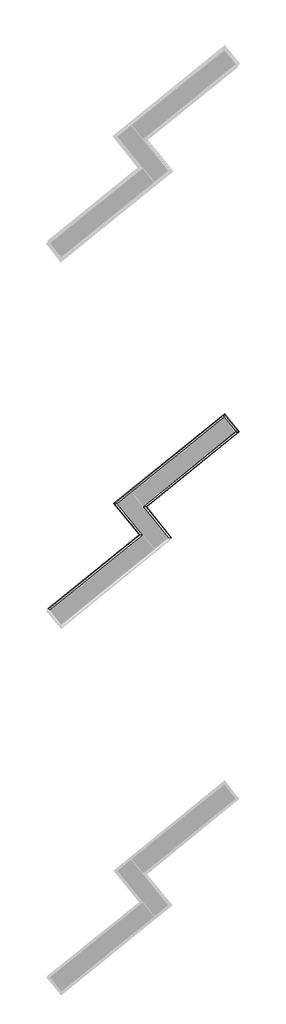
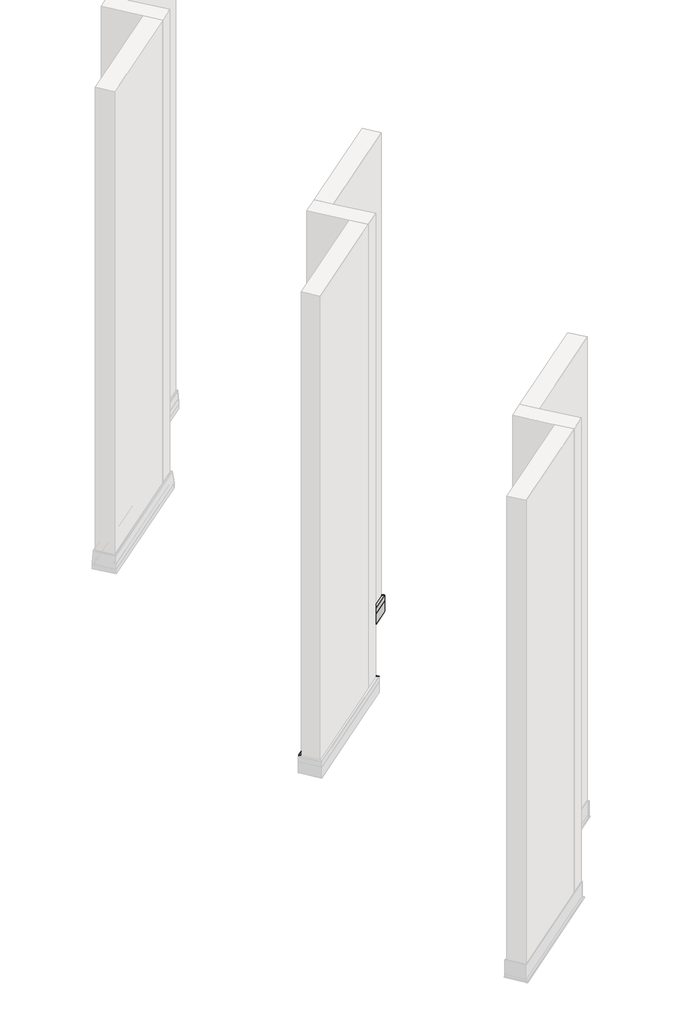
# One storey, part 13 of 21: 5 proxies.
"""IFC4 building model written with IfcOpenShell, lengths in millimetres."""

from ifc_helpers import new_model, si_unit, frame, origin, place, context, project, spatial, circle_curve, ellipse_curve, element, save
from ifc_brep_helpers import plane_surface, cylinder_surface, advanced_brep

model = new_model("IFC4")

# Units and contexts
model_context = context("Model", 3, world=origin())
ifc_project = project(units=[si_unit("LENGTHUNIT", "METRE", prefix="MILLI")], contexts=[model_context])

# Site, building, storey
site = spatial("IfcSite", under=ifc_project)
building = spatial("IfcBuilding", under=site)
storey = spatial("IfcBuildingStorey", under=building, Name="Izofleks 2D View", Elevation=0.0)

# Proxies
placement = place(None, origin())
element("IfcBuildingElementProxy", 1, Name="Wall Sweeps", at=placement, inside=storey, context=model_context, shape_type="AdvancedBrep", body=[
    advanced_brep(
    [(10090.7557354, -7173.9399413, 100.0761589), (10090.7561443, -7173.9399843, 95.8999603), (10088.0380278, -7173.6542987, 95.8999603), (10088.0380278, -7173.6542987, 25.0000729), (10105.3375301, -7175.4725497, 25.0000729), (10105.3375301, -7175.4725497, 4.3000282), (10101.118593, -7175.0291215, 4.3000282), (10101.118593, -7175.0291215, 0.0), (10102.9468876, -7175.221283, 0.0), (10102.9468876, -7175.221283, 2.9999622), (10107.1662336, -7175.6647541, 2.9999622), (10107.1705263, -7175.6652053, 66.9999802), (10105.3504083, -7175.4739032, 66.9998348), (10105.3499995, -7175.4738602, 69.0768883), (10107.216111, -7175.6699965, 69.0770336), (10107.2120208, -7175.6695666, 98.0903335), (10104.3237642, -7175.3659986, 100.0761589), (10594.6845778, -6763.380012, 100.0761589), (10602.1816209, -6757.3090262, 100.0761589), (10603.7775332, -6756.0166819, 98.0903335), (10603.7797932, -6756.0148518, 69.0770336), (10602.7486693, -6756.8498394, 69.0768883), (10602.7488952, -6756.8496565, 66.9998348), (10603.7546053, -6756.0352486, 66.9999802), (10603.7522333, -6756.0371693, 2.9999622), (10601.4208248, -6757.9251067, 2.9999622), (10601.4208248, -6757.9251067, 0.0), (10600.4105967, -6758.7431733, 0.0), (10600.4105967, -6758.7431733, 4.3000282), (10602.7417794, -6756.8554188, 4.3000282), (10602.7417794, -6756.8554188, 25.0000729), (10593.1829027, -6764.5960445, 25.0000729), (10593.1829027, -6764.5960445, 95.8999603), (10594.6848037, -6763.379829, 95.8999603), (10595.9006104, -6764.8816871, 100.0761589), (10609.4686391, -6766.3077444, 100.0761589), (10612.3568958, -6766.6113124, 98.0903335), (10612.360986, -6766.6117423, 69.0770336), (10610.4948744, -6766.4156061, 69.0768883), (10610.4952832, -6766.415649, 66.9998348), (10612.3154013, -6766.6069511, 66.9999802), (10612.3111085, -6766.6065, 2.9999622), (10608.0917626, -6766.1630288, 2.9999622), (10608.0917626, -6766.1630288, 0.0), (10606.2634679, -6765.9708673, 0.0), (10606.2634679, -6765.9708673, 4.3000282), (10610.482405, -6766.4142955, 4.3000282), (10610.482405, -6766.4142955, 25.0000729), (10595.9010192, -6764.8817301, 95.8999603)],
    [
        (0, 1),
        (1, 2),
        (2, 3),
        (3, 4),
        (4, 5),
        (5, 6),
        (6, 7),
        (7, 8),
        (8, 9),
        (9, 10),
        (10, 11),
        (11, 12),
        (12, 13),
        (13, 14),
        (14, 15),
        (15, 16, ellipse_curve(frame((10104.3991518, -7175.3739221, 98.0768773), z_axis=(-0.10452846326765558, -0.9945218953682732, 0.0), x_axis=(0.9945218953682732, -0.10452846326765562, 0.0)), 2.8284271, 2.0)),
        (16, 0),
        (17, 18),
        (18, 19, circle_curve(frame((10602.2232764, -6757.2752942, 98.0768773), z_axis=(-0.6293203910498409, 0.777145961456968, 0.0), x_axis=(0.7771459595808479, 0.6293203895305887, 6.948547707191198e-05)), 2.0)),
        (19, 20),
        (20, 21),
        (21, 22),
        (22, 23),
        (23, 24),
        (24, 25),
        (25, 26),
        (26, 27),
        (27, 28),
        (28, 29),
        (29, 30),
        (30, 31),
        (31, 32),
        (32, 33),
        (33, 17),
        (17, 34),
        (34, 35),
        (35, 18),
        (35, 36, ellipse_curve(frame((10609.5440267, -6766.315668, 98.0768773), z_axis=(0.1045284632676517, 0.9945218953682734, 0.0), x_axis=(-0.9945218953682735, 0.1045284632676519, 0.0)), 2.8284271, 2.0)),
        (36, 19),
        (36, 37),
        (37, 20),
        (37, 38),
        (38, 21),
        (38, 39),
        (39, 22),
        (39, 40),
        (40, 23),
        (40, 41),
        (41, 24),
        (41, 42),
        (42, 25),
        (42, 43),
        (43, 26),
        (43, 44),
        (44, 27),
        (44, 45),
        (45, 28),
        (45, 46),
        (46, 29),
        (46, 47),
        (47, 30),
        (47, 31),
        (32, 48),
        (48, 33),
        (48, 34),
        (34, 0),
        (16, 35),
        (15, 36),
        (14, 37),
        (13, 38),
        (12, 39),
        (11, 40),
        (10, 41),
        (9, 42),
        (8, 43),
        (7, 44),
        (6, 45),
        (5, 46),
        (4, 47),
        (3, 31),
        (2, 32),
        (1, 48),
    ],
    [
        plane_surface(frame((10088.0380278, -7173.6542987, -304.8), z_axis=(-0.10452846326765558, -0.9945218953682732, 0.0), x_axis=(0.9945218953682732, -0.10452846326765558, 0.0))),
        plane_surface(frame((10593.1829027, -6764.5960445, 0.0), z_axis=(-0.6293203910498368, 0.7771459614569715, 0.0), x_axis=(0.7771459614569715, 0.6293203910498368, 0.0))),
        plane_surface(frame((10594.6845778, -6763.380012, 100.0761589), z_axis=(0.0, 0.0, 1.0), x_axis=(0.6293203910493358, -0.7771459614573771, 0.0))),
        cylinder_surface(frame((10602.2232764, -6757.2752942, 98.0768773), z_axis=(-0.629320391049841, 0.7771459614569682, 0.0), x_axis=(0.7771459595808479, 0.6293203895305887, 6.948547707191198e-05)), 2.0),
        plane_surface(frame((10603.7775332, -6756.0166819, 98.0903335), z_axis=(0.7771459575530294, 0.6293203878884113, 0.00010023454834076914), x_axis=(0.6293203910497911, -0.7771459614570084, 0.0))),
        plane_surface(frame((10603.7797932, -6756.0148518, 69.0770336), z_axis=(8.512936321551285e-05, 6.893639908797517e-05, -0.9999999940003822), x_axis=(0.6293203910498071, -0.7771459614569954, 0.0))),
        plane_surface(frame((10602.7486693, -6756.8498394, 69.0768883), z_axis=(0.7771459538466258, 0.6293203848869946, 0.00013994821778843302), x_axis=(0.6293203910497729, -0.7771459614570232, 0.0))),
        plane_surface(frame((10602.7488952, -6756.8496565, 66.9998348), z_axis=(-8.728054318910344e-05, -7.067839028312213e-05, 0.9999999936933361), x_axis=(0.6293203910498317, -0.7771459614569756, 0.0))),
        plane_surface(frame((10603.7546053, -6756.0352486, 66.9999802), z_axis=(0.7771459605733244, 0.6293203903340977, -4.768966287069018e-05), x_axis=(0.6293203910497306, -0.7771459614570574, 0.0))),
        plane_surface(frame((10603.7522333, -6756.0371693, 2.9999622), z_axis=(0.0, 0.0, -1.0), x_axis=(0.6293203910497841, -0.7771459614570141, 0.0))),
        plane_surface(frame((10601.4208248, -6757.9251067, 2.9999622), z_axis=(0.7771459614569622, 0.6293203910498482, 0.0), x_axis=(0.6293203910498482, -0.7771459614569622, 0.0))),
        plane_surface(frame((10601.4208248, -6757.9251067, 0.0), z_axis=(0.0, 0.0, -1.0), x_axis=(0.6293203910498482, -0.7771459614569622, 0.0))),
        plane_surface(frame((10600.4105967, -6758.7431733, 0.0), z_axis=(-0.7771459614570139, -0.6293203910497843, 0.0), x_axis=(0.6293203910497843, -0.7771459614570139, 0.0))),
        plane_surface(frame((10600.4105967, -6758.7431733, 4.3000282), z_axis=(0.0, 0.0, 1.0), x_axis=(0.6293203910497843, -0.7771459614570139, 0.0))),
        plane_surface(frame((10602.7417794, -6756.8554188, 4.3000282), z_axis=(-0.7771459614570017, -0.6293203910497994, 0.0), x_axis=(0.6293203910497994, -0.7771459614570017, 0.0))),
        plane_surface(frame((10602.7417794, -6756.8554188, 25.0000729), z_axis=(0.0, 0.0, -1.0), x_axis=(0.6293203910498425, -0.7771459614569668, 0.0))),
        plane_surface(frame((10593.1829027, -6764.5960445, 95.8999603), z_axis=(0.0, 0.0, 1.0), x_axis=(0.6293203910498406, -0.7771459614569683, 0.0))),
        plane_surface(frame((10594.6848037, -6763.379829, 95.8999603), z_axis=(-0.777145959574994, -0.6293203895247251, -6.960395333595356e-05), x_axis=(0.6293203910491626, -0.7771459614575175, 0.0))),
        plane_surface(frame((10595.9006104, -6764.8816871, 100.0761589), z_axis=(0.0, 0.0, 1.0), x_axis=(-0.7771459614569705, -0.6293203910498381, 0.0))),
        cylinder_surface(frame((10600.503653, -6773.6364183, 98.0768773), z_axis=(0.7771459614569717, 0.6293203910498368, 0.0), x_axis=(0.6293203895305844, -0.7771459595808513, 6.9485477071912e-05)), 2.0),
        plane_surface(frame((10612.3568958, -6766.6113124, 98.0903335), z_axis=(0.6293203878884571, -0.7771459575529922, 0.00010023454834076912), x_axis=(-0.7771459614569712, -0.629320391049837, 0.0))),
        plane_surface(frame((10612.360986, -6766.6117423, 69.0770336), z_axis=(6.893639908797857e-05, -8.512936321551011e-05, -0.9999999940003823), x_axis=(-0.7771459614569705, -0.6293203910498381, 0.0))),
        plane_surface(frame((10610.4948744, -6766.4156061, 69.0768883), z_axis=(0.6293203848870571, -0.7771459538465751, 0.000139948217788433), x_axis=(-0.7771459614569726, -0.6293203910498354, 0.0))),
        plane_surface(frame((10610.4952832, -6766.415649, 66.9998348), z_axis=(-7.067839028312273e-05, 8.728054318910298e-05, 0.9999999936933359), x_axis=(-0.7771459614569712, -0.629320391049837, 0.0))),
        plane_surface(frame((10612.3154013, -6766.6069511, 66.9999802), z_axis=(0.6293203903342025, -0.7771459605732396, -4.7689662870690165e-05), x_axis=(-0.7771459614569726, -0.6293203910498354, 0.0))),
        plane_surface(frame((10612.3111085, -6766.6065, 2.9999622), z_axis=(0.0, 0.0, -1.0), x_axis=(-0.7771459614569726, -0.6293203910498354, 0.0))),
        plane_surface(frame((10608.0917626, -6766.1630288, 2.9999622), z_axis=(0.629320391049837, -0.7771459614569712, 0.0), x_axis=(-0.7771459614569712, -0.629320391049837, 0.0))),
        plane_surface(frame((10608.0917626, -6766.1630288, 0.0), z_axis=(0.0, 0.0, -1.0), x_axis=(-0.7771459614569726, -0.6293203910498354, 0.0))),
        plane_surface(frame((10606.2634679, -6765.9708673, 0.0), z_axis=(-0.6293203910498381, 0.7771459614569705, 0.0), x_axis=(-0.7771459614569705, -0.6293203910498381, 0.0))),
        plane_surface(frame((10606.2634679, -6765.9708673, 4.3000282), z_axis=(0.0, 0.0, 1.0), x_axis=(-0.7771459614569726, -0.6293203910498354, 0.0))),
        plane_surface(frame((10610.482405, -6766.4142955, 4.3000282), z_axis=(-0.629320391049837, 0.7771459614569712, 0.0), x_axis=(-0.7771459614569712, -0.629320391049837, 0.0))),
        plane_surface(frame((10610.482405, -6766.4142955, 25.0000729), z_axis=(0.0, 0.0, -1.0), x_axis=(-0.7771459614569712, -0.629320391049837, 0.0))),
        plane_surface(frame((10593.1829027, -6764.5960445, 25.0000729), z_axis=(-0.629320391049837, 0.7771459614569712, 0.0), x_axis=(-0.7771459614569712, -0.629320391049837, 0.0))),
        plane_surface(frame((10593.1829027, -6764.5960445, 95.8999603), z_axis=(0.0, 0.0, 1.0), x_axis=(-0.7771459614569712, -0.629320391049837, 0.0))),
        plane_surface(frame((10595.9010192, -6764.8817301, 95.8999603), z_axis=(-0.6293203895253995, 0.7771459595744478, -6.960395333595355e-05), x_axis=(-0.7771459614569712, -0.629320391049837, 0.0))),
    ],
    [
        (0, [[1, 2, 3, 4, 5, 6, 7, 8, 9, 10, 11, 12, 13, 14, 15, 16, 17]]),
        (1, [[18, 19, 20, 21, 22, 23, 24, 25, 26, 27, 28, 29, 30, 31, 32, 33, 34]]),
        (2, [[-18, 35, 36, 37]]),
        (3, [[-19, -37, 38, 39]]),
        (4, [[-20, -39, 40, 41]]),
        (5, [[-21, -41, 42, 43]]),
        (6, [[-22, -43, 44, 45]]),
        (7, [[-23, -45, 46, 47]]),
        (8, [[-24, -47, 48, 49]]),
        (9, [[-25, -49, 50, 51]]),
        (10, [[-26, -51, 52, 53]]),
        (11, [[-27, -53, 54, 55]]),
        (12, [[-28, -55, 56, 57]]),
        (13, [[-29, -57, 58, 59]]),
        (14, [[-30, -59, 60, 61]]),
        (15, [[-31, -61, 62]]),
        (16, [[-33, 63, 64]]),
        (17, [[-34, -64, 65, -35]]),
        (18, [[-36, 66, -17, 67]]),
        (19, [[-38, -67, -16, 68]]),
        (20, [[-40, -68, -15, 69]]),
        (21, [[-42, -69, -14, 70]]),
        (22, [[-44, -70, -13, 71]]),
        (23, [[-46, -71, -12, 72]]),
        (24, [[-48, -72, -11, 73]]),
        (25, [[-50, -73, -10, 74]]),
        (26, [[-52, -74, -9, 75]]),
        (27, [[-54, -75, -8, 76]]),
        (28, [[-56, -76, -7, 77]]),
        (29, [[-58, -77, -6, 78]]),
        (30, [[-60, -78, -5, 79]]),
        (31, [[-62, -79, -4, 80]]),
        (32, [[-32, -80, -3, 81]]),
        (33, [[-63, -81, -2, 82]]),
        (34, [[-65, -82, -1, -66]]),
    ],
),
])
element("IfcBuildingElementProxy", 2, Name="Wall Sweeps", at=placement, inside=storey, context=model_context, shape_type="AdvancedBrep", body=[
    advanced_brep(
    [(9944.6736848, -7158.5860991, 100.0761589), (9931.1056561, -7157.1600418, 100.0761589), (9928.2173994, -7156.8564738, 98.0903335), (9928.2133092, -7156.8560439, 69.0770336), (9930.0794208, -7157.0521801, 69.0768883), (9930.079012, -7157.0521371, 66.9998348), (9928.2588939, -7156.860835, 66.9999802), (9928.2631867, -7156.8612862, 2.9999622), (9932.4825326, -7157.3047573, 2.9999622), (9932.4825326, -7157.3047573, 0.0), (9934.3108273, -7157.4969189, 0.0), (9934.3108273, -7157.4969189, 4.3000282), (9930.0918902, -7157.0534907, 4.3000282), (9930.0918902, -7157.0534907, 25.0000729), (9947.3913925, -7158.8717417, 25.0000729), (9947.3913925, -7158.8717417, 95.8999603), (9944.673276, -7158.5860561, 95.8999603), (10600.4256212, -6770.4696101, 100.0761589), (10600.4258471, -6770.4694272, 95.8999603), (10598.9239461, -6771.6856426, 95.8999603), (10598.9239461, -6771.6856426, 25.0000729), (10608.4828227, -6763.945017, 25.0000729), (10608.4828227, -6763.945017, 4.3000282), (10606.1516401, -6765.8327714, 4.3000282), (10606.1516401, -6765.8327714, 0.0), (10607.1618682, -6765.0147049, 0.0), (10607.1618682, -6765.0147049, 2.9999622), (10609.4932767, -6763.1267674, 2.9999622), (10609.4956487, -6763.1248467, 66.9999802), (10608.4899386, -6763.9392546, 66.9998348), (10608.4897127, -6763.9394376, 69.0768883), (10609.5208366, -6763.1044499, 69.0770336), (10609.5185765, -6763.10628, 98.0903335), (10607.9226642, -6764.3986244, 100.0761589), (10530.5365062, -6684.1637407, 100.0761589), (10530.5365492, -6684.1633319, 95.8999603), (10530.2508636, -6686.8814484, 95.8999603), (10530.2508636, -6686.8814484, 25.0000729), (10532.0691146, -6669.581946, 25.0000729), (10532.0691146, -6669.581946, 4.3000282), (10531.6256864, -6673.8008831, 4.3000282), (10531.6256864, -6673.8008831, 0.0), (10531.8178479, -6671.9725885, 0.0), (10531.8178479, -6671.9725885, 2.9999622), (10532.261319, -6667.7532425, 2.9999622), (10532.2617702, -6667.7489498, 66.9999802), (10532.0704681, -6669.5690678, 66.9998348), (10532.0704251, -6669.5694767, 69.0768883), (10532.2665614, -6667.7033651, 69.0770336), (10532.2661315, -6667.7074553, 98.0903335), (10531.9625635, -6670.5957119, 100.0761589)],
    [
        (0, 1),
        (1, 2, ellipse_curve(frame((9931.0302685, -7157.1521182, 98.0768773), z_axis=(-0.10452846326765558, -0.9945218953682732, 0.0), x_axis=(0.9945218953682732, -0.10452846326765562, 0.0)), 2.8284271, 2.0)),
        (2, 3),
        (3, 4),
        (4, 5),
        (5, 6),
        (6, 7),
        (7, 8),
        (8, 9),
        (9, 10),
        (10, 11),
        (11, 12),
        (12, 13),
        (13, 14),
        (14, 15),
        (15, 16),
        (16, 0),
        (17, 18),
        (18, 19),
        (19, 20),
        (20, 21),
        (21, 22),
        (22, 23),
        (23, 24),
        (24, 25),
        (25, 26),
        (26, 27),
        (27, 28),
        (28, 29),
        (29, 30),
        (30, 31),
        (31, 32),
        (32, 33, circle_curve(frame((10607.9643198, -6764.3648923, 98.0768773), z_axis=(0.6293203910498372, -0.777145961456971, 0.0), x_axis=(0.7771459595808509, 0.6293203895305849, 6.948547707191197e-05)), 2.0)),
        (33, 17),
        (17, 34),
        (34, 35),
        (35, 18),
        (35, 36),
        (36, 19),
        (36, 37),
        (37, 20),
        (37, 38),
        (38, 21),
        (38, 39),
        (39, 22),
        (39, 40),
        (40, 23),
        (40, 41),
        (41, 24),
        (41, 42),
        (42, 25),
        (42, 43),
        (43, 26),
        (43, 44),
        (44, 27),
        (44, 45),
        (45, 28),
        (45, 46),
        (46, 29),
        (46, 47),
        (47, 30),
        (47, 48),
        (48, 31),
        (48, 49),
        (49, 32),
        (49, 50, ellipse_curve(frame((10531.970487, -6670.5203243, 98.0768773), z_axis=(0.9945218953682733, -0.10452846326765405, 0.0), x_axis=(-0.10452846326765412, -0.9945218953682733, 0.0)), 2.8284271, 2.0)),
        (50, 33),
        (50, 34),
        (34, 0),
        (16, 35),
        (15, 36),
        (14, 37),
        (13, 38),
        (12, 39),
        (11, 40),
        (10, 41),
        (9, 42),
        (8, 43),
        (7, 44),
        (6, 45),
        (5, 46),
        (4, 47),
        (3, 48),
        (2, 49),
        (1, 50),
    ],
    [
        plane_surface(frame((9947.3913925, -7158.8717417, -304.8), z_axis=(-0.10452846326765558, -0.9945218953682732, 0.0), x_axis=(0.9945218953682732, -0.10452846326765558, 0.0))),
        plane_surface(frame((10598.9239461, -6771.6856426, 0.0), z_axis=(0.6293203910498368, -0.7771459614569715, 0.0), x_axis=(-0.7771459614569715, -0.6293203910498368, 0.0))),
        plane_surface(frame((10600.4256212, -6770.4696101, 100.0761589), z_axis=(-0.7771459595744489, -0.6293203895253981, -6.960395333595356e-05), x_axis=(-0.6293203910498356, 0.7771459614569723, 0.0))),
        plane_surface(frame((10600.4258471, -6770.4694272, 95.8999603), z_axis=(0.0, 0.0, 1.0), x_axis=(-0.6293203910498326, 0.7771459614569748, 0.0))),
        plane_surface(frame((10598.9239461, -6771.6856426, 95.8999603), z_axis=(-0.7771459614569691, -0.6293203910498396, 0.0), x_axis=(-0.6293203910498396, 0.7771459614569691, 0.0))),
        plane_surface(frame((10598.9239461, -6771.6856426, 25.0000729), z_axis=(0.0, 0.0, -1.0), x_axis=(-0.6293203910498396, 0.7771459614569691, 0.0))),
        plane_surface(frame((10608.4828227, -6763.945017, 25.0000729), z_axis=(-0.7771459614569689, -0.6293203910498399, 0.0), x_axis=(-0.6293203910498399, 0.7771459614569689, 0.0))),
        plane_surface(frame((10608.4828227, -6763.945017, 4.3000282), z_axis=(0.0, 0.0, 1.0), x_axis=(-0.6293203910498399, 0.7771459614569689, 0.0))),
        plane_surface(frame((10606.1516401, -6765.8327714, 4.3000282), z_axis=(-0.7771459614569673, -0.6293203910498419, 0.0), x_axis=(-0.6293203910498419, 0.7771459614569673, 0.0))),
        plane_surface(frame((10606.1516401, -6765.8327714, 0.0), z_axis=(0.0, 0.0, -1.0), x_axis=(-0.6293203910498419, 0.7771459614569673, 0.0))),
        plane_surface(frame((10607.1618682, -6765.0147049, 0.0), z_axis=(0.7771459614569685, 0.6293203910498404, 0.0), x_axis=(-0.6293203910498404, 0.7771459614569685, 0.0))),
        plane_surface(frame((10607.1618682, -6765.0147049, 2.9999622), z_axis=(0.0, 0.0, -1.0), x_axis=(-0.6293203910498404, 0.7771459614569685, 0.0))),
        plane_surface(frame((10609.4932767, -6763.1267674, 2.9999622), z_axis=(0.7771459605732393, 0.629320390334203, -4.7689662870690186e-05), x_axis=(-0.6293203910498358, 0.7771459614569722, 0.0))),
        plane_surface(frame((10609.4956487, -6763.1248467, 66.9999802), z_axis=(-8.72805431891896e-05, -7.067839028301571e-05, 0.9999999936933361), x_axis=(-0.6293203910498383, 0.7771459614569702, 0.0))),
        plane_surface(frame((10608.4899386, -6763.9392546, 66.9998348), z_axis=(0.7771459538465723, 0.6293203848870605, 0.00013994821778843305), x_axis=(-0.629320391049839, 0.7771459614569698, 0.0))),
        plane_surface(frame((10608.4897127, -6763.9394376, 69.0768883), z_axis=(8.512936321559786e-05, 6.893639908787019e-05, -0.9999999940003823), x_axis=(-0.6293203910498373, 0.7771459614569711, 0.0))),
        plane_surface(frame((10609.5208366, -6763.1044499, 69.0770336), z_axis=(0.7771459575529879, 0.6293203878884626, 0.00010023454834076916), x_axis=(-0.6293203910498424, 0.7771459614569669, 0.0))),
        cylinder_surface(frame((10607.9643198, -6764.3648923, 98.0768773), z_axis=(0.6293203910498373, -0.7771459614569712, 0.0), x_axis=(0.7771459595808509, 0.6293203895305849, 6.948547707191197e-05)), 2.0),
        plane_surface(frame((10607.9226642, -6764.3986244, 100.0761589), z_axis=(0.0, 0.0, 1.0), x_axis=(-0.6293203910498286, 0.777145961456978, 0.0))),
        plane_surface(frame((10530.5365062, -6684.1637407, 100.0761589), z_axis=(0.6293203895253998, -0.7771459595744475, -6.960395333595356e-05), x_axis=(-0.777145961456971, -0.6293203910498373, 0.0))),
        plane_surface(frame((10530.5365492, -6684.1633319, 95.8999603), z_axis=(0.0, 0.0, 1.0000000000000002), x_axis=(-0.7771459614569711, -0.6293203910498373, 0.0))),
        plane_surface(frame((10530.2508636, -6686.8814484, 95.8999603), z_axis=(0.629320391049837, -0.7771459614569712, 0.0), x_axis=(-0.7771459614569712, -0.629320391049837, 0.0))),
        plane_surface(frame((10530.2508636, -6686.8814484, 25.0000729), z_axis=(0.0, 0.0, -1.0), x_axis=(-0.7771459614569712, -0.629320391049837, 0.0))),
        plane_surface(frame((10532.0691146, -6669.581946, 25.0000729), z_axis=(0.6293203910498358, -0.7771459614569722, 0.0), x_axis=(-0.7771459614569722, -0.6293203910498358, 0.0))),
        plane_surface(frame((10532.0691146, -6669.581946, 4.3000282), z_axis=(0.0, 0.0, 1.0), x_axis=(-0.7771459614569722, -0.6293203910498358, 0.0))),
        plane_surface(frame((10531.6256864, -6673.8008831, 4.3000282), z_axis=(0.6293203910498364, -0.7771459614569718, 0.0), x_axis=(-0.7771459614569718, -0.6293203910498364, 0.0))),
        plane_surface(frame((10531.6256864, -6673.8008831, 0.0), z_axis=(0.0, 0.0, -1.0), x_axis=(-0.7771459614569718, -0.6293203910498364, 0.0))),
        plane_surface(frame((10531.8178479, -6671.9725885, 0.0), z_axis=(-0.6293203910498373, 0.777145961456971, 0.0), x_axis=(-0.777145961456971, -0.6293203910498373, 0.0))),
        plane_surface(frame((10531.8178479, -6671.9725885, 2.9999622), z_axis=(0.0, 0.0, -1.0), x_axis=(-0.777145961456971, -0.6293203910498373, 0.0))),
        plane_surface(frame((10532.261319, -6667.7532425, 2.9999622), z_axis=(-0.629320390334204, 0.7771459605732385, -4.768966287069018e-05), x_axis=(-0.7771459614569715, -0.6293203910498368, 0.0))),
        plane_surface(frame((10532.2617702, -6667.7489498, 66.9999802), z_axis=(7.067839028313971e-05, -8.728054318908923e-05, 0.9999999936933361), x_axis=(-0.7771459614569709, -0.6293203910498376, 0.0))),
        plane_surface(frame((10532.0704681, -6669.5690678, 66.9998348), z_axis=(-0.6293203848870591, 0.7771459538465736, 0.00013994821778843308), x_axis=(-0.777145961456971, -0.6293203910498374, 0.0))),
        plane_surface(frame((10532.0704251, -6669.5694767, 69.0768883), z_axis=(-6.893639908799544e-05, 8.512936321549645e-05, -0.9999999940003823), x_axis=(-0.7771459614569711, -0.6293203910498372, 0.0))),
        plane_surface(frame((10532.2665614, -6667.7033651, 69.0770336), z_axis=(-0.6293203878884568, 0.7771459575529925, 0.00010023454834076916), x_axis=(-0.7771459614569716, -0.6293203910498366, 0.0))),
        cylinder_surface(frame((10522.9301133, -6677.8410746, 98.0768773), z_axis=(0.7771459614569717, 0.6293203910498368, 0.0), x_axis=(-0.6293203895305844, 0.7771459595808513, 6.948547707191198e-05)), 2.0),
        plane_surface(frame((10531.9625635, -6670.5957119, 100.0761589), z_axis=(0.0, 0.0, 1.0), x_axis=(-0.7771459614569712, -0.629320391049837, 0.0))),
    ],
    [
        (0, [[1, 2, 3, 4, 5, 6, 7, 8, 9, 10, 11, 12, 13, 14, 15, 16, 17]]),
        (1, [[18, 19, 20, 21, 22, 23, 24, 25, 26, 27, 28, 29, 30, 31, 32, 33, 34]]),
        (2, [[-18, 35, 36, 37]]),
        (3, [[-19, -37, 38, 39]]),
        (4, [[-20, -39, 40, 41]]),
        (5, [[-21, -41, 42, 43]]),
        (6, [[-22, -43, 44, 45]]),
        (7, [[-23, -45, 46, 47]]),
        (8, [[-24, -47, 48, 49]]),
        (9, [[-25, -49, 50, 51]]),
        (10, [[-26, -51, 52, 53]]),
        (11, [[-27, -53, 54, 55]]),
        (12, [[-28, -55, 56, 57]]),
        (13, [[-29, -57, 58, 59]]),
        (14, [[-30, -59, 60, 61]]),
        (15, [[-31, -61, 62, 63]]),
        (16, [[-32, -63, 64, 65]]),
        (17, [[-33, -65, 66, 67]]),
        (18, [[-34, -67, 68, -35]]),
        (19, [[-36, 69, -17, 70]]),
        (20, [[-38, -70, -16, 71]]),
        (21, [[-40, -71, -15, 72]]),
        (22, [[-42, -72, -14, 73]]),
        (23, [[-44, -73, -13, 74]]),
        (24, [[-46, -74, -12, 75]]),
        (25, [[-48, -75, -11, 76]]),
        (26, [[-50, -76, -10, 77]]),
        (27, [[-52, -77, -9, 78]]),
        (28, [[-54, -78, -8, 79]]),
        (29, [[-56, -79, -7, 80]]),
        (30, [[-58, -80, -6, 81]]),
        (31, [[-60, -81, -5, 82]]),
        (32, [[-62, -82, -4, 83]]),
        (33, [[-64, -83, -3, 84]]),
        (34, [[-66, -84, -2, 85]]),
        (35, [[-68, -85, -1, -69]]),
    ],
),
])
element("IfcBuildingElementProxy", 3, Name="Wall Sweeps", at=placement, inside=storey, context=model_context, shape_type="AdvancedBrep", body=[
    advanced_brep(
    [(10090.7557354, -7173.9399413, 100.0761589), (10104.3237642, -7175.3659986, 100.0761589), (10107.2120208, -7175.6695666, 98.0903335), (10107.216111, -7175.6699965, 69.0770336), (10105.3499995, -7175.4738602, 69.0768883), (10105.3504083, -7175.4739032, 66.9998348), (10107.1705263, -7175.6652053, 66.9999802), (10107.1662336, -7175.6647541, 2.9999622), (10102.9468876, -7175.221283, 2.9999622), (10102.9468876, -7175.221283, 0.0), (10101.118593, -7175.0291215, 0.0), (10101.118593, -7175.0291215, 4.3000282), (10105.3375301, -7175.4725497, 4.3000282), (10105.3375301, -7175.4725497, 25.0000729), (10088.0380278, -7173.6542987, 25.0000729), (10088.0380278, -7173.6542987, 95.8999603), (10090.7561443, -7173.9399843, 95.8999603), (10229.2062215, -7344.9120528, 100.0761589), (10229.2066303, -7344.9120958, 95.8999603), (10226.4885138, -7344.6264102, 95.8999603), (10226.4885138, -7344.6264102, 25.0000729), (10243.7880161, -7346.4446612, 25.0000729), (10243.7880161, -7346.4446612, 4.3000282), (10239.569079, -7346.001233, 4.3000282), (10239.569079, -7346.001233, 0.0), (10241.3973737, -7346.1933945, 0.0), (10241.3973737, -7346.1933945, 2.9999622), (10245.6167196, -7346.6368657, 2.9999622), (10245.6210123, -7346.6373169, 66.9999802), (10243.8008943, -7346.4460147, 66.9998348), (10243.8004855, -7346.4459718, 69.0768883), (10245.6665971, -7346.642108, 69.0770336), (10245.6625069, -7346.6416781, 98.0903335), (10242.7742502, -7346.3381101, 100.0761589)],
    [
        (0, 1),
        (1, 2, ellipse_curve(frame((10104.3991518, -7175.3739221, 98.0768773), z_axis=(0.10452846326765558, 0.9945218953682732, 0.0), x_axis=(-0.9945218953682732, 0.10452846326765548, 0.0)), 2.8284271, 2.0)),
        (2, 3),
        (3, 4),
        (4, 5),
        (5, 6),
        (6, 7),
        (7, 8),
        (8, 9),
        (9, 10),
        (10, 11),
        (11, 12),
        (12, 13),
        (13, 14),
        (14, 15),
        (15, 16),
        (16, 0),
        (17, 18),
        (18, 19),
        (19, 20),
        (20, 21),
        (21, 22),
        (22, 23),
        (23, 24),
        (24, 25),
        (25, 26),
        (26, 27),
        (27, 28),
        (28, 29),
        (29, 30),
        (30, 31),
        (31, 32),
        (32, 33, ellipse_curve(frame((10242.8496378, -7346.3460337, 98.0768773), z_axis=(-0.10452846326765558, -0.9945218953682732, 0.0), x_axis=(-0.9945218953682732, 0.10452846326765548, 0.0)), 2.8284271, 2.0)),
        (33, 17),
        (0, 17),
        (33, 1),
        (32, 2),
        (31, 3),
        (30, 4),
        (29, 5),
        (28, 6),
        (27, 7),
        (26, 8),
        (25, 9),
        (24, 10),
        (23, 11),
        (22, 12),
        (21, 13),
        (20, 14),
        (19, 15),
        (18, 16),
    ],
    [
        plane_surface(frame((10088.0380278, -7173.6542987, -304.8), z_axis=(0.10452846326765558, 0.9945218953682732, 0.0), x_axis=(0.9945218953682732, -0.10452846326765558, 0.0))),
        plane_surface(frame((10226.4885138, -7344.6264102, 304.8), z_axis=(-0.10452846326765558, -0.9945218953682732, 0.0), x_axis=(-0.9945218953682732, 0.10452846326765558, 0.0))),
        plane_surface(frame((10090.7557354, -7173.9399413, 100.0761589), z_axis=(0.0, 0.0, 1.0), x_axis=(0.6293203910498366, -0.7771459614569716, 0.0))),
        cylinder_surface(frame((10097.0784015, -7166.3335484, 98.0768773), z_axis=(-0.629320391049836, 0.7771459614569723, 0.0), x_axis=(0.777145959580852, 0.6293203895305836, 6.948547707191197e-05)), 2.0),
        plane_surface(frame((10107.2120208, -7175.6695666, 98.0903335), z_axis=(0.7771459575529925, 0.6293203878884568, 0.00010023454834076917), x_axis=(0.6293203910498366, -0.7771459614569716, 0.0))),
        plane_surface(frame((10107.216111, -7175.6699965, 69.0770336), z_axis=(8.512936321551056e-05, 6.893639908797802e-05, -0.9999999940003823), x_axis=(0.6293203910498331, -0.7771459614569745, 0.0))),
        plane_surface(frame((10105.3499995, -7175.4738602, 69.0768883), z_axis=(0.7771459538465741, 0.6293203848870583, 0.00013994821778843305), x_axis=(0.6293203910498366, -0.7771459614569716, 0.0))),
        plane_surface(frame((10105.3504083, -7175.4739032, 66.9998348), z_axis=(-8.728054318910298e-05, -7.067839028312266e-05, 0.9999999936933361), x_axis=(0.6293203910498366, -0.7771459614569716, 0.0))),
        plane_surface(frame((10107.1705263, -7175.6652053, 66.9999802), z_axis=(0.7771459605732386, 0.6293203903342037, -4.768966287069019e-05), x_axis=(0.6293203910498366, -0.7771459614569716, 0.0))),
        plane_surface(frame((10107.1662336, -7175.6647541, 2.9999622), z_axis=(0.0, 0.0, -1.0), x_axis=(0.6293203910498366, -0.7771459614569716, 0.0))),
        plane_surface(frame((10102.9468876, -7175.221283, 2.9999622), z_axis=(0.7771459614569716, 0.6293203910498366, 0.0), x_axis=(0.6293203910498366, -0.7771459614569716, 0.0))),
        plane_surface(frame((10102.9468876, -7175.221283, 0.0), z_axis=(0.0, 0.0, -1.0), x_axis=(0.6293203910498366, -0.7771459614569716, 0.0))),
        plane_surface(frame((10101.118593, -7175.0291215, 0.0), z_axis=(-0.7771459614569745, -0.6293203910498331, 0.0), x_axis=(0.6293203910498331, -0.7771459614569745, 0.0))),
        plane_surface(frame((10101.118593, -7175.0291215, 4.3000282), z_axis=(0.0, 0.0, 1.0), x_axis=(0.6293203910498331, -0.7771459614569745, 0.0))),
        plane_surface(frame((10105.3375301, -7175.4725497, 4.3000282), z_axis=(-0.7771459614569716, -0.6293203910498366, 0.0), x_axis=(0.6293203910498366, -0.7771459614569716, 0.0))),
        plane_surface(frame((10105.3375301, -7175.4725497, 25.0000729), z_axis=(0.0, 0.0, -1.0), x_axis=(0.6293203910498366, -0.7771459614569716, 0.0))),
        plane_surface(frame((10088.0380278, -7173.6542987, 25.0000729), z_axis=(-0.7771459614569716, -0.6293203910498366, 0.0), x_axis=(0.6293203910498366, -0.7771459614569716, 0.0))),
        plane_surface(frame((10088.0380278, -7173.6542987, 95.8999603), z_axis=(0.0, 0.0, 1.0), x_axis=(0.6293203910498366, -0.7771459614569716, 0.0))),
        plane_surface(frame((10090.7561443, -7173.9399843, 95.8999603), z_axis=(-0.7771459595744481, -0.6293203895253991, -6.960395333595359e-05), x_axis=(0.6293203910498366, -0.7771459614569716, 0.0))),
    ],
    [
        (0, [[1, 2, 3, 4, 5, 6, 7, 8, 9, 10, 11, 12, 13, 14, 15, 16, 17]]),
        (1, [[18, 19, 20, 21, 22, 23, 24, 25, 26, 27, 28, 29, 30, 31, 32, 33, 34]]),
        (2, [[-1, 35, -34, 36]]),
        (3, [[-2, -36, -33, 37]]),
        (4, [[-3, -37, -32, 38]]),
        (5, [[-4, -38, -31, 39]]),
        (6, [[-5, -39, -30, 40]]),
        (7, [[-6, -40, -29, 41]]),
        (8, [[-7, -41, -28, 42]]),
        (9, [[-8, -42, -27, 43]]),
        (10, [[-9, -43, -26, 44]]),
        (11, [[-10, -44, -25, 45]]),
        (12, [[-11, -45, -24, 46]]),
        (13, [[-12, -46, -23, 47]]),
        (14, [[-13, -47, -22, 48]]),
        (15, [[-14, -48, -21, 49]]),
        (16, [[-15, -49, -20, 50]]),
        (17, [[-16, -50, -19, 51]]),
        (18, [[-17, -51, -18, -35]]),
    ],
),
])
element("IfcBuildingElementProxy", 4, Name="Wall Sweeps", at=placement, inside=storey, context=model_context, shape_type="AdvancedBrep", body=[
    advanced_brep(
    [(9944.6736848, -7158.5860991, 100.0761589), (9944.673276, -7158.5860561, 95.8999603), (9947.3913925, -7158.8717417, 95.8999603), (9947.3913925, -7158.8717417, 25.0000729), (9930.0918902, -7157.0534907, 25.0000729), (9930.0918902, -7157.0534907, 4.3000282), (9934.3108273, -7157.4969189, 4.3000282), (9934.3108273, -7157.4969189, 0.0), (9932.4825326, -7157.3047573, 0.0), (9932.4825326, -7157.3047573, 2.9999622), (9928.2631867, -7156.8612862, 2.9999622), (9928.2588939, -7156.860835, 66.9999802), (9930.079012, -7157.0521371, 66.9998348), (9930.0794208, -7157.0521801, 69.0768883), (9928.2133092, -7156.8560439, 69.0770336), (9928.2173994, -7156.8564738, 98.0903335), (9931.1056561, -7157.1600418, 100.0761589), (10083.1241709, -7329.5582106, 100.0761589), (10069.5561421, -7328.1321533, 100.0761589), (10066.6678855, -7327.8285853, 98.0903335), (10066.6637953, -7327.8281554, 69.0770336), (10068.5299068, -7328.0242916, 69.0768883), (10068.529498, -7328.0242487, 66.9998348), (10066.70938, -7327.8329466, 66.9999802), (10066.7136727, -7327.8333977, 2.9999622), (10070.9330186, -7328.2768689, 2.9999622), (10070.9330186, -7328.2768689, 0.0), (10072.7613133, -7328.4690304, 0.0), (10072.7613133, -7328.4690304, 4.3000282), (10068.5423762, -7328.0256022, 4.3000282), (10068.5423762, -7328.0256022, 25.0000729), (10085.8418785, -7329.8438532, 25.0000729), (10085.8418785, -7329.8438532, 95.8999603), (10083.123762, -7329.5581676, 95.8999603)],
    [
        (0, 1),
        (1, 2),
        (2, 3),
        (3, 4),
        (4, 5),
        (5, 6),
        (6, 7),
        (7, 8),
        (8, 9),
        (9, 10),
        (10, 11),
        (11, 12),
        (12, 13),
        (13, 14),
        (14, 15),
        (15, 16, ellipse_curve(frame((9931.0302685, -7157.1521182, 98.0768773), z_axis=(0.10452846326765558, 0.9945218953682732, 0.0), x_axis=(-0.9945218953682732, 0.10452846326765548, 0.0)), 2.8284271, 2.0)),
        (16, 0),
        (17, 18),
        (18, 19, ellipse_curve(frame((10069.4807545, -7328.1242298, 98.0768773), z_axis=(-0.10452846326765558, -0.9945218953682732, 0.0), x_axis=(-0.9945218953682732, 0.10452846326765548, 0.0)), 2.8284271, 2.0)),
        (19, 20),
        (20, 21),
        (21, 22),
        (22, 23),
        (23, 24),
        (24, 25),
        (25, 26),
        (26, 27),
        (27, 28),
        (28, 29),
        (29, 30),
        (30, 31),
        (31, 32),
        (32, 33),
        (33, 17),
        (0, 17),
        (33, 1),
        (32, 2),
        (31, 3),
        (30, 4),
        (29, 5),
        (28, 6),
        (27, 7),
        (26, 8),
        (25, 9),
        (24, 10),
        (23, 11),
        (22, 12),
        (21, 13),
        (20, 14),
        (19, 15),
        (18, 16),
    ],
    [
        plane_surface(frame((9947.3913925, -7158.8717417, -304.8), z_axis=(0.10452846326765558, 0.9945218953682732, 0.0), x_axis=(0.9945218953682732, -0.10452846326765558, 0.0))),
        plane_surface(frame((10085.8418785, -7329.8438532, 304.8), z_axis=(-0.10452846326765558, -0.9945218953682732, 0.0), x_axis=(-0.9945218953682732, 0.10452846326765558, 0.0))),
        plane_surface(frame((9944.6736848, -7158.5860991, 100.0761589), z_axis=(0.7771459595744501, 0.6293203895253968, -6.960395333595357e-05), x_axis=(0.6293203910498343, -0.7771459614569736, 0.0))),
        plane_surface(frame((9944.673276, -7158.5860561, 95.8999603), z_axis=(0.0, 0.0, 1.0), x_axis=(0.6293203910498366, -0.7771459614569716, 0.0))),
        plane_surface(frame((9947.3913925, -7158.8717417, 95.8999603), z_axis=(0.7771459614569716, 0.6293203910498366, 0.0), x_axis=(0.6293203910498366, -0.7771459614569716, 0.0))),
        plane_surface(frame((9947.3913925, -7158.8717417, 25.0000729), z_axis=(0.0, 0.0, -1.0), x_axis=(0.6293203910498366, -0.7771459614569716, 0.0))),
        plane_surface(frame((9930.0918902, -7157.0534907, 25.0000729), z_axis=(0.7771459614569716, 0.6293203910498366, 0.0), x_axis=(0.6293203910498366, -0.7771459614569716, 0.0))),
        plane_surface(frame((9930.0918902, -7157.0534907, 4.3000282), z_axis=(0.0, 0.0, 1.0), x_axis=(0.6293203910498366, -0.7771459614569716, 0.0))),
        plane_surface(frame((9934.3108273, -7157.4969189, 4.3000282), z_axis=(0.7771459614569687, 0.6293203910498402, 0.0), x_axis=(0.6293203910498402, -0.7771459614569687, 0.0))),
        plane_surface(frame((9934.3108273, -7157.4969189, 0.0), z_axis=(0.0, 0.0, -1.0), x_axis=(0.6293203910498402, -0.7771459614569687, 0.0))),
        plane_surface(frame((9932.4825326, -7157.3047573, 0.0), z_axis=(-0.7771459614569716, -0.6293203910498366, 0.0), x_axis=(0.6293203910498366, -0.7771459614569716, 0.0))),
        plane_surface(frame((9932.4825326, -7157.3047573, 2.9999622), z_axis=(0.0, 0.0, -1.0), x_axis=(0.6293203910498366, -0.7771459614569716, 0.0))),
        plane_surface(frame((9928.2631867, -7156.8612862, 2.9999622), z_axis=(-0.7771459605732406, -0.6293203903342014, -4.768966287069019e-05), x_axis=(0.6293203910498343, -0.7771459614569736, 0.0))),
        plane_surface(frame((9928.2588939, -7156.860835, 66.9999802), z_axis=(8.728054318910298e-05, 7.067839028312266e-05, 0.9999999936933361), x_axis=(0.6293203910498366, -0.7771459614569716, 0.0))),
        plane_surface(frame((9930.079012, -7157.0521371, 66.9998348), z_axis=(-0.7771459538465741, -0.6293203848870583, 0.00013994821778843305), x_axis=(0.6293203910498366, -0.7771459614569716, 0.0))),
        plane_surface(frame((9930.0794208, -7157.0521801, 69.0768883), z_axis=(-8.512936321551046e-05, -6.893639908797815e-05, -0.9999999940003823), x_axis=(0.6293203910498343, -0.7771459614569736, 0.0))),
        plane_surface(frame((9928.2133092, -7156.8560439, 69.0770336), z_axis=(-0.7771459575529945, -0.6293203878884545, 0.00010023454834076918), x_axis=(0.6293203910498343, -0.7771459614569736, 0.0))),
        cylinder_surface(frame((9938.3510188, -7166.192492, 98.0768773), z_axis=(-0.629320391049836, 0.7771459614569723, 0.0), x_axis=(-0.777145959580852, -0.6293203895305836, 6.948547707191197e-05)), 2.0),
        plane_surface(frame((9931.1056561, -7157.1600418, 100.0761589), z_axis=(0.0, 0.0, 1.0000000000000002), x_axis=(0.6293203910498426, -0.7771459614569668, 0.0))),
    ],
    [
        (0, [[1, 2, 3, 4, 5, 6, 7, 8, 9, 10, 11, 12, 13, 14, 15, 16, 17]]),
        (1, [[18, 19, 20, 21, 22, 23, 24, 25, 26, 27, 28, 29, 30, 31, 32, 33, 34]]),
        (2, [[-1, 35, -34, 36]]),
        (3, [[-2, -36, -33, 37]]),
        (4, [[-3, -37, -32, 38]]),
        (5, [[-4, -38, -31, 39]]),
        (6, [[-5, -39, -30, 40]]),
        (7, [[-6, -40, -29, 41]]),
        (8, [[-7, -41, -28, 42]]),
        (9, [[-8, -42, -27, 43]]),
        (10, [[-9, -43, -26, 44]]),
        (11, [[-10, -44, -25, 45]]),
        (12, [[-11, -45, -24, 46]]),
        (13, [[-12, -46, -23, 47]]),
        (14, [[-13, -47, -22, 48]]),
        (15, [[-14, -48, -21, 49]]),
        (16, [[-15, -49, -20, 50]]),
        (17, [[-16, -50, -19, 51]]),
        (18, [[-17, -51, -18, -35]]),
    ],
),
])
element("IfcBuildingElementProxy", 5, Name="Wall Sweeps", at=placement, inside=storey, context=model_context, shape_type="AdvancedBrep", body=[
    advanced_brep(
    [(10083.1241709, -7329.5582106, 100.0761589), (10083.123762, -7329.5581676, 95.8999603), (10085.8418785, -7329.8438532, 95.8999603), (10085.8418785, -7329.8438532, 25.0000729), (10068.5423762, -7328.0256022, 25.0000729), (10068.5423762, -7328.0256022, 4.3000282), (10072.7613133, -7328.4690304, 4.3000282), (10072.7613133, -7328.4690304, 0.0), (10070.9330186, -7328.2768689, 0.0), (10070.9330186, -7328.2768689, 2.9999622), (10066.7136727, -7327.8333977, 2.9999622), (10066.70938, -7327.8329466, 66.9999802), (10068.529498, -7328.0242487, 66.9998348), (10068.5299068, -7328.0242916, 69.0768883), (10066.6637953, -7327.8281554, 69.0770336), (10066.6678855, -7327.8285853, 98.0903335), (10069.5561421, -7328.1321533, 100.0761589), (9579.480971, -7737.4004322, 100.0761589), (9573.4099853, -7729.9033892, 100.0761589), (9572.117641, -7728.3074769, 98.0903335), (9572.1158108, -7728.3052168, 69.0770336), (9572.9507985, -7729.3363407, 69.0768883), (9572.9506156, -7729.3361148, 66.9998348), (9572.1362076, -7728.3304048, 66.9999802), (9572.1381284, -7728.3327767, 2.9999622), (9574.0260658, -7730.6641853, 2.9999622), (9574.0260658, -7730.6641853, 0.0), (9574.8441324, -7731.6744133, 0.0), (9574.8441324, -7731.6744133, 4.3000282), (9572.9563779, -7729.3432307, 4.3000282), (9572.9563779, -7729.3432307, 25.0000729), (9580.6970036, -7738.9021074, 25.0000729), (9580.6970036, -7738.9021074, 95.8999603), (9579.4807881, -7737.4002063, 95.8999603)],
    [
        (0, 1),
        (1, 2),
        (2, 3),
        (3, 4),
        (4, 5),
        (5, 6),
        (6, 7),
        (7, 8),
        (8, 9),
        (9, 10),
        (10, 11),
        (11, 12),
        (12, 13),
        (13, 14),
        (14, 15),
        (15, 16, ellipse_curve(frame((10069.4807545, -7328.1242298, 98.0768773), z_axis=(0.10452846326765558, 0.9945218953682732, 0.0), x_axis=(0.9945218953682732, -0.10452846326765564, 0.0)), 2.8284271, 2.0)),
        (16, 0),
        (17, 18),
        (18, 19, circle_curve(frame((9573.3762533, -7729.8617336, 98.0768773), z_axis=(-0.7771459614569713, -0.6293203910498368, 0.0), x_axis=(-0.6293203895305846, 0.7771459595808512, 6.948547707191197e-05)), 2.0)),
        (19, 20),
        (20, 21),
        (21, 22),
        (22, 23),
        (23, 24),
        (24, 25),
        (25, 26),
        (26, 27),
        (27, 28),
        (28, 29),
        (29, 30),
        (30, 31),
        (31, 32),
        (32, 33),
        (33, 17),
        (0, 17),
        (33, 1),
        (32, 2),
        (31, 3),
        (30, 4),
        (29, 5),
        (28, 6),
        (27, 7),
        (26, 8),
        (25, 9),
        (24, 10),
        (23, 11),
        (22, 12),
        (21, 13),
        (20, 14),
        (19, 15),
        (18, 16),
    ],
    [
        plane_surface(frame((10085.8418785, -7329.8438532, 304.8), z_axis=(0.10452846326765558, 0.9945218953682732, 0.0), x_axis=(-0.9945218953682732, 0.10452846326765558, 0.0))),
        plane_surface(frame((9580.6970036, -7738.9021074, -100.7438095), z_axis=(-0.7771459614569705, -0.6293203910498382, 0.0), x_axis=(0.6293203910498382, -0.7771459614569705, 0.0))),
        plane_surface(frame((10083.1241709, -7329.5582106, 100.0761589), z_axis=(0.6293203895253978, -0.7771459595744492, -6.960395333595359e-05), x_axis=(-0.7771459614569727, -0.6293203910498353, 0.0))),
        plane_surface(frame((10083.123762, -7329.5581676, 95.8999603), z_axis=(0.0, 0.0, 1.0000000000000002), x_axis=(-0.7771459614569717, -0.6293203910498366, 0.0))),
        plane_surface(frame((10085.8418785, -7329.8438532, 95.8999603), z_axis=(0.6293203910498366, -0.7771459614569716, 0.0), x_axis=(-0.7771459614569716, -0.6293203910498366, 0.0))),
        plane_surface(frame((10085.8418785, -7329.8438532, 25.0000729), z_axis=(0.0, 0.0, -1.0), x_axis=(-0.7771459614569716, -0.6293203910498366, 0.0))),
        plane_surface(frame((10068.5423762, -7328.0256022, 25.0000729), z_axis=(0.6293203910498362, -0.777145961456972, 0.0), x_axis=(-0.777145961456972, -0.6293203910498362, 0.0))),
        plane_surface(frame((10068.5423762, -7328.0256022, 4.3000282), z_axis=(0.0, 0.0, 1.0000000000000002), x_axis=(-0.777145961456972, -0.6293203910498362, 0.0))),
        plane_surface(frame((10072.7613133, -7328.4690304, 4.3000282), z_axis=(0.6293203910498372, -0.7771459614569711, 0.0), x_axis=(-0.7771459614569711, -0.6293203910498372, 0.0))),
        plane_surface(frame((10072.7613133, -7328.4690304, 0.0), z_axis=(0.0, 0.0, -1.0), x_axis=(-0.7771459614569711, -0.6293203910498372, 0.0))),
        plane_surface(frame((10070.9330186, -7328.2768689, 0.0), z_axis=(-0.6293203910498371, 0.7771459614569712, 0.0), x_axis=(-0.7771459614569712, -0.6293203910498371, 0.0))),
        plane_surface(frame((10070.9330186, -7328.2768689, 2.9999622), z_axis=(0.0, 0.0, -1.0), x_axis=(-0.7771459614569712, -0.6293203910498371, 0.0))),
        plane_surface(frame((10066.7136727, -7327.8333977, 2.9999622), z_axis=(-0.6293203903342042, 0.7771459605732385, -4.768966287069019e-05), x_axis=(-0.7771459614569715, -0.629320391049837, 0.0))),
        plane_surface(frame((10066.70938, -7327.8329466, 66.9999802), z_axis=(7.067839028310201e-05, -8.728054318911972e-05, 0.9999999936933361), x_axis=(-0.7771459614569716, -0.6293203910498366, 0.0))),
        plane_surface(frame((10068.529498, -7328.0242487, 66.9998348), z_axis=(-0.6293203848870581, 0.7771459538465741, 0.00013994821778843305), x_axis=(-0.7771459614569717, -0.6293203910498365, 0.0))),
        plane_surface(frame((10068.5299068, -7328.0242916, 69.0768883), z_axis=(-6.893639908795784e-05, 8.512936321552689e-05, -0.9999999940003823), x_axis=(-0.7771459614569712, -0.6293203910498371, 0.0))),
        plane_surface(frame((10066.6637953, -7327.8281554, 69.0770336), z_axis=(-0.6293203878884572, 0.7771459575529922, 0.00010023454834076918), x_axis=(-0.7771459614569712, -0.6293203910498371, 0.0))),
        cylinder_surface(frame((10078.5211282, -7320.8034794, 98.0768773), z_axis=(0.7771459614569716, 0.629320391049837, 0.0), x_axis=(-0.6293203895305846, 0.7771459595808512, 6.948547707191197e-05)), 2.0),
        plane_surface(frame((10069.5561421, -7328.1321533, 100.0761589), z_axis=(0.0, 0.0, 1.0000000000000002), x_axis=(-0.7771459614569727, -0.6293203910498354, 0.0))),
    ],
    [
        (0, [[1, 2, 3, 4, 5, 6, 7, 8, 9, 10, 11, 12, 13, 14, 15, 16, 17]]),
        (1, [[18, 19, 20, 21, 22, 23, 24, 25, 26, 27, 28, 29, 30, 31, 32, 33, 34]]),
        (2, [[-1, 35, -34, 36]]),
        (3, [[-2, -36, -33, 37]]),
        (4, [[-3, -37, -32, 38]]),
        (5, [[-4, -38, -31, 39]]),
        (6, [[-5, -39, -30, 40]]),
        (7, [[-6, -40, -29, 41]]),
        (8, [[-7, -41, -28, 42]]),
        (9, [[-8, -42, -27, 43]]),
        (10, [[-9, -43, -26, 44]]),
        (11, [[-10, -44, -25, 45]]),
        (12, [[-11, -45, -24, 46]]),
        (13, [[-12, -46, -23, 47]]),
        (14, [[-13, -47, -22, 48]]),
        (15, [[-14, -48, -21, 49]]),
        (16, [[-15, -49, -20, 50]]),
        (17, [[-16, -50, -19, 51]]),
        (18, [[-17, -51, -18, -35]]),
    ],
),
])

save(model, "model.ifc")
